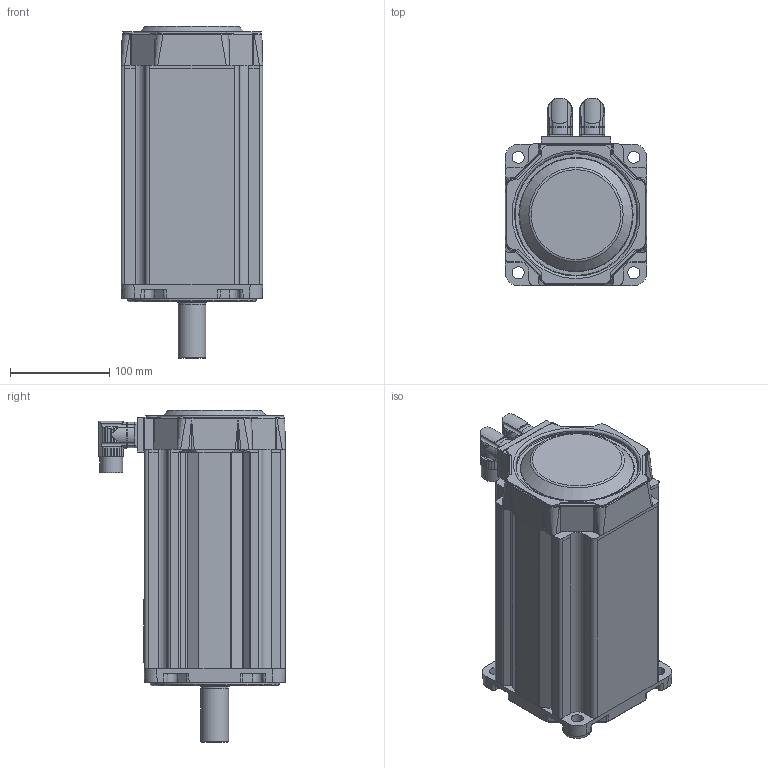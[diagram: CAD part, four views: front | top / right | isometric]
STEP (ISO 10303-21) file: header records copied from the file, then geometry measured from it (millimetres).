
FILE_DESCRIPTION((''),'2;1');
FILE_NAME('C:\Documents and Settings\jevans\My Documents\Engineering Projects\MPJ\MPJ1422XXX_NPSB.stp','2007-05-02T10:44:18',('jevans'),(''),'Autodesk Inventor 11','Autodesk Inventor 11','');
FILE_SCHEMA(('AUTOMOTIVE_DESIGN { 1 0 10303 214 1 1 1 1 }'));
Length unit declared in the file: inch
Products named in the file (4): MPJ1422XXX_NPSB; MPP142_MOTOR_1; MPP142_MOTOR_2; MPP142_MOTOR_3
Assembly tree (3 placements, depth 2):
  MPJ1422XXX_NPSB
    MPP142_MOTOR_1
    MPP142_MOTOR_2
    MPP142_MOTOR_3
Bounding box: 142.75 x 188.8 x 335.28 mm (x, y, z)
Volume: 4809992.3 mm3; surface area: 262806 mm2
Topology: 3 solids, 3 shells, 893 faces, 2262 edges, 1419 vertices
Faces by surface type: cylinder 401, plane 283, bspline 146, cone 39, torus 22, sphere 2
Full cylindrical faces by diameter (mm): 0.178 x1, 1.143 x17, 2.032 x6, 2.794 x2, 6.401 x8, 8.382 x1, 12.217 x4, 19.05 x2, 19.685 x2, 22.86 x2, 27.645 x1, 28.001 x1, 29.921 x1, 29.997 x1, 36.83 x1, 55.88 x1, 66.04 x1, 71.526 x1, 72.009 x1, 72.034 x2, 76.352 x1, 80.95 x1, 124.46 x1, 129.997 x1
Entity records: 34255 total; most frequent: CARTESIAN_POINT 13884, ORIENTED_EDGE 4310, DIRECTION 3967, EDGE_CURVE 2155, AXIS2_PLACEMENT_3D 1520, VERTEX_POINT 1398, EDGE_LOOP 1041, VECTOR 927
